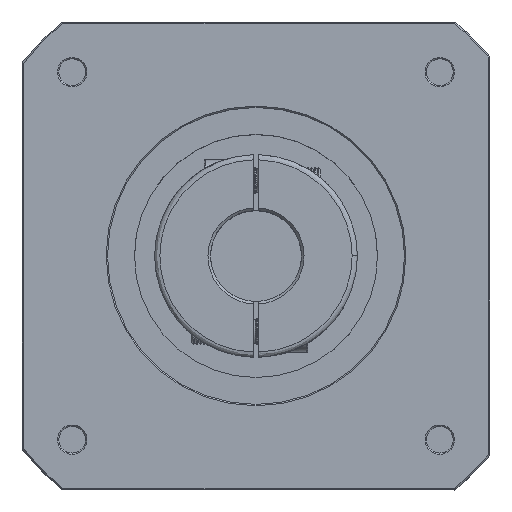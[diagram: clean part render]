
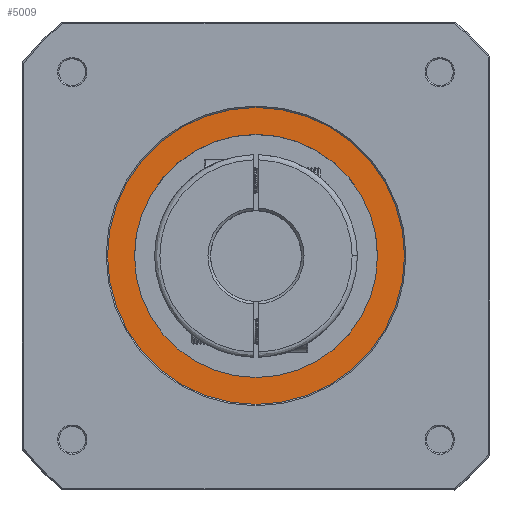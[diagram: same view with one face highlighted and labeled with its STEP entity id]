
A CAD part, top view. The second image highlights one B-rep face of the part: STEP entity #5009.
In plain terms, the highlighted planar face has unit normal (0, 0, -1).
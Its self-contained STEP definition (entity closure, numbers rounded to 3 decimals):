
#4360 = CIRCLE ( 'NONE', #79936, 57.15 ) ;
#5009 = ADVANCED_FACE ( 'NONE', ( #80733, #59444 ), #50933, .F. ) ;
#5408 = DIRECTION ( 'NONE',  ( -1., 0., 0. ) ) ;
#6589 = DIRECTION ( 'NONE',  ( 0., 0., -1. ) ) ;
#8134 = EDGE_CURVE ( 'NONE', #86151, #46469, #15212, .T. ) ;
#10226 = EDGE_LOOP ( 'NONE', ( #26241, #89662 ) ) ;
#15212 = CIRCLE ( 'NONE', #72906, 46.75 ) ;
#18224 = ORIENTED_EDGE ( 'NONE', *, *, #90442, .T. ) ;
#19823 = DIRECTION ( 'NONE',  ( 0., 0., 1. ) ) ;
#26241 = ORIENTED_EDGE ( 'NONE', *, *, #8134, .T. ) ;
#26434 = CARTESIAN_POINT ( 'NONE',  ( 46.75, 0., 221.5 ) ) ;
#37577 = EDGE_CURVE ( 'NONE', #63162, #52950, #4360, .T. ) ;
#41596 = DIRECTION ( 'NONE',  ( 0., 0., -1. ) ) ;
#46469 = VERTEX_POINT ( 'NONE', #26434 ) ;
#46696 = CARTESIAN_POINT ( 'NONE',  ( 0., 0., 221.5 ) ) ;
#50933 = PLANE ( 'NONE',  #53363 ) ;
#51321 = CARTESIAN_POINT ( 'NONE',  ( -46.75, 0., 221.5 ) ) ;
#52950 = VERTEX_POINT ( 'NONE', #82016 ) ;
#53338 = DIRECTION ( 'NONE',  ( 0., 0., 1. ) ) ;
#53363 = AXIS2_PLACEMENT_3D ( 'NONE', #67677, #19823, #75760 ) ;
#54535 = CARTESIAN_POINT ( 'NONE',  ( 0., 0., 221.5 ) ) ;
#54773 = DIRECTION ( 'NONE',  ( -1., 0., 0. ) ) ;
#59444 = FACE_OUTER_BOUND ( 'NONE', #78015, .T. ) ;
#60553 = AXIS2_PLACEMENT_3D ( 'NONE', #54535, #6589, #62564 ) ;
#62252 = CARTESIAN_POINT ( 'NONE',  ( 57.15, 0., 221.5 ) ) ;
#62564 = DIRECTION ( 'NONE',  ( 1., 0., 0. ) ) ;
#63162 = VERTEX_POINT ( 'NONE', #62252 ) ;
#67677 = CARTESIAN_POINT ( 'NONE',  ( -57.836, -57.836, 221.5 ) ) ;
#69291 = CIRCLE ( 'NONE', #89092, 46.75 ) ;
#72906 = AXIS2_PLACEMENT_3D ( 'NONE', #101128, #53338, #5408 ) ;
#75760 = DIRECTION ( 'NONE',  ( 1., 0., 0. ) ) ;
#78015 = EDGE_LOOP ( 'NONE', ( #101905, #18224 ) ) ;
#79936 = AXIS2_PLACEMENT_3D ( 'NONE', #89439, #41596, #97453 ) ;
#80733 = FACE_BOUND ( 'NONE', #10226, .T. ) ;
#82016 = CARTESIAN_POINT ( 'NONE',  ( -57.15, 0., 221.5 ) ) ;
#86151 = VERTEX_POINT ( 'NONE', #51321 ) ;
#88218 = EDGE_CURVE ( 'NONE', #46469, #86151, #69291, .T. ) ;
#89092 = AXIS2_PLACEMENT_3D ( 'NONE', #46696, #102571, #54773 ) ;
#89439 = CARTESIAN_POINT ( 'NONE',  ( 0., 0., 221.5 ) ) ;
#89662 = ORIENTED_EDGE ( 'NONE', *, *, #88218, .T. ) ;
#90442 = EDGE_CURVE ( 'NONE', #52950, #63162, #96481, .T. ) ;
#96481 = CIRCLE ( 'NONE', #60553, 57.15 ) ;
#97453 = DIRECTION ( 'NONE',  ( 1., 0., 0. ) ) ;
#101128 = CARTESIAN_POINT ( 'NONE',  ( 0., 0., 221.5 ) ) ;
#101905 = ORIENTED_EDGE ( 'NONE', *, *, #37577, .T. ) ;
#102571 = DIRECTION ( 'NONE',  ( 0., 0., 1. ) ) ;
